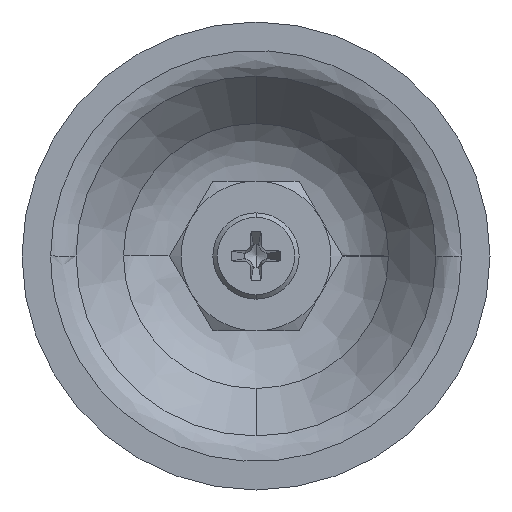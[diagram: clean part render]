
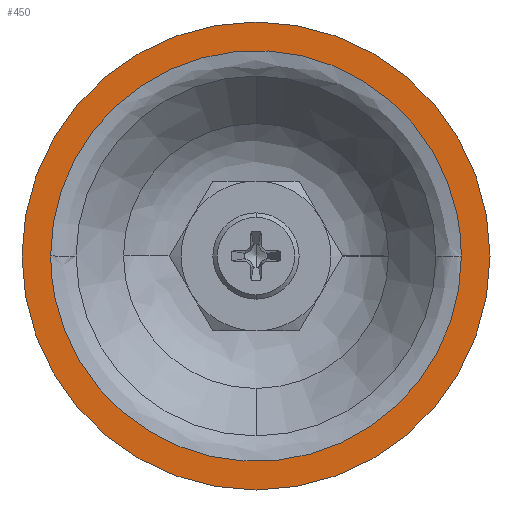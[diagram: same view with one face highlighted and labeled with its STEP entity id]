
A CAD part, front view. The second image highlights one B-rep face of the part: STEP entity #450.
In plain terms, the highlighted planar face has unit normal (0, -1, 0).
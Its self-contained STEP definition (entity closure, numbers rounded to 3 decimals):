
#107 = VERTEX_POINT ( 'NONE', #1838 ) ;
#177 = VERTEX_POINT ( 'NONE', #2398 ) ;
#212 = EDGE_CURVE ( 'NONE', #3653, #107, #2727, .T. ) ;
#368 = ORIENTED_EDGE ( 'NONE', *, *, #212, .T. ) ;
#434 = EDGE_LOOP ( 'NONE', ( #1881, #3052 ) ) ;
#450 = ADVANCED_FACE ( 'NONE', ( #2096, #2097 ), #2098, .F. ) ;
#618 = EDGE_CURVE ( 'NONE', #107, #3653, #2810, .T. ) ;
#653 = EDGE_CURVE ( 'NONE', #177, #4308, #2932, .T. ) ;
#772 = EDGE_LOOP ( 'NONE', ( #1726, #368 ) ) ;
#1460 = CARTESIAN_POINT ( 'NONE',  ( -32.911, 0., 0. ) ) ;
#1726 = ORIENTED_EDGE ( 'NONE', *, *, #618, .T. ) ;
#1838 = CARTESIAN_POINT ( 'NONE',  ( 0., 0., 37.5 ) ) ;
#1881 = ORIENTED_EDGE ( 'NONE', *, *, #653, .T. ) ;
#2096 = FACE_BOUND ( 'NONE', #434, .T. ) ;
#2097 = FACE_OUTER_BOUND ( 'NONE', #772, .T. ) ;
#2098 = PLANE ( 'NONE',  #2099 ) ;
#2099 = AXIS2_PLACEMENT_3D ( 'NONE', #2100, #2101, #2102 ) ;
#2100 = CARTESIAN_POINT ( 'NONE',  ( -39., 0., 39.027 ) ) ;
#2101 = DIRECTION ( 'NONE',  ( 0., 1., 0. ) ) ;
#2102 = DIRECTION ( 'NONE',  ( 1., 0., 0. ) ) ;
#2398 = CARTESIAN_POINT ( 'NONE',  ( 32.911, 0., 0. ) ) ;
#2727 = CIRCLE ( 'NONE', #2728, 37.5 ) ;
#2728 = AXIS2_PLACEMENT_3D ( 'NONE', #2729, #2730, #2731 ) ;
#2729 = CARTESIAN_POINT ( 'NONE',  ( 0., 0., 0. ) ) ;
#2730 = DIRECTION ( 'NONE',  ( 0., -1., 0. ) ) ;
#2731 = DIRECTION ( 'NONE',  ( 0., 0., 1. ) ) ;
#2810 = CIRCLE ( 'NONE', #2811, 37.5 ) ;
#2811 = AXIS2_PLACEMENT_3D ( 'NONE', #2812, #2813, #2814 ) ;
#2812 = CARTESIAN_POINT ( 'NONE',  ( 0., 0., 0. ) ) ;
#2813 = DIRECTION ( 'NONE',  ( 0., -1., 0. ) ) ;
#2814 = DIRECTION ( 'NONE',  ( 0., 0., 1. ) ) ;
#2932 = B_SPLINE_CURVE_WITH_KNOTS ( 'NONE', 3,
 ( #2933, #2934, #2935, #2936, #2937, #2938, #2939, #2940, #2941, #2942, #2943, #2944, #2945, #2946, #2947, #2950, #2951, #2952, #2953, #2954, #2955, #2956, #2957, #2958, #2959, #2960, #2961, #2962, #2963, #2964, #2965, #2968, #2969, #2970 ),
 .UNSPECIFIED., .F., .F.,
 ( 4, 2, 2, 2, 2, 2, 2, 2, 2, 2, 2, 2, 2, 2, 2, 2, 4 ),
 ( 0., 0.063, 0.125, 0.188, 0.25, 0.313, 0.375, 0.438, 0.5, 0.563, 0.625, 0.687, 0.75, 0.813, 0.875, 0.938, 1. ),
 .UNSPECIFIED. ) ;
#2933 = CARTESIAN_POINT ( 'NONE',  ( 32.911, 0., 0. ) ) ;
#2934 = CARTESIAN_POINT ( 'NONE',  ( 32.911, 0., -2.156 ) ) ;
#2935 = CARTESIAN_POINT ( 'NONE',  ( 32.699, 0., -4.307 ) ) ;
#2936 = CARTESIAN_POINT ( 'NONE',  ( 31.858, 0., -8.534 ) ) ;
#2937 = CARTESIAN_POINT ( 'NONE',  ( 31.23, 0., -10.603 ) ) ;
#2938 = CARTESIAN_POINT ( 'NONE',  ( 29.581, 0., -14.585 ) ) ;
#2939 = CARTESIAN_POINT ( 'NONE',  ( 28.562, 0., -16.492 ) ) ;
#2940 = CARTESIAN_POINT ( 'NONE',  ( 26.167, 0., -20.076 ) ) ;
#2941 = CARTESIAN_POINT ( 'NONE',  ( 24.795, 0., -21.748 ) ) ;
#2942 = CARTESIAN_POINT ( 'NONE',  ( 21.748, 0., -24.795 ) ) ;
#2943 = CARTESIAN_POINT ( 'NONE',  ( 20.076, 0., -26.167 ) ) ;
#2944 = CARTESIAN_POINT ( 'NONE',  ( 16.492, 0., -28.562 ) ) ;
#2945 = CARTESIAN_POINT ( 'NONE',  ( 14.585, 0., -29.581 ) ) ;
#2946 = CARTESIAN_POINT ( 'NONE',  ( 10.603, 0., -31.23 ) ) ;
#2947 = CARTESIAN_POINT ( 'NONE',  ( 8.534, 0., -31.858 ) ) ;
#2950 = CARTESIAN_POINT ( 'NONE',  ( 4.307, 0., -32.699 ) ) ;
#2951 = CARTESIAN_POINT ( 'NONE',  ( 2.155, 0., -32.911 ) ) ;
#2952 = CARTESIAN_POINT ( 'NONE',  ( -2.155, 0., -32.911 ) ) ;
#2953 = CARTESIAN_POINT ( 'NONE',  ( -4.307, 0., -32.699 ) ) ;
#2954 = CARTESIAN_POINT ( 'NONE',  ( -8.534, 0., -31.858 ) ) ;
#2955 = CARTESIAN_POINT ( 'NONE',  ( -10.603, 0., -31.23 ) ) ;
#2956 = CARTESIAN_POINT ( 'NONE',  ( -14.585, 0., -29.581 ) ) ;
#2957 = CARTESIAN_POINT ( 'NONE',  ( -16.492, 0., -28.562 ) ) ;
#2958 = CARTESIAN_POINT ( 'NONE',  ( -20.076, 0., -26.167 ) ) ;
#2959 = CARTESIAN_POINT ( 'NONE',  ( -21.748, 0., -24.795 ) ) ;
#2960 = CARTESIAN_POINT ( 'NONE',  ( -24.795, 0., -21.748 ) ) ;
#2961 = CARTESIAN_POINT ( 'NONE',  ( -26.167, 0., -20.076 ) ) ;
#2962 = CARTESIAN_POINT ( 'NONE',  ( -28.562, 0., -16.492 ) ) ;
#2963 = CARTESIAN_POINT ( 'NONE',  ( -29.581, 0., -14.585 ) ) ;
#2964 = CARTESIAN_POINT ( 'NONE',  ( -31.23, 0., -10.603 ) ) ;
#2965 = CARTESIAN_POINT ( 'NONE',  ( -31.858, 0., -8.534 ) ) ;
#2967 = EDGE_CURVE ( 'NONE', #4308, #177, #3151, .T. ) ;
#2968 = CARTESIAN_POINT ( 'NONE',  ( -32.699, 0., -4.307 ) ) ;
#2969 = CARTESIAN_POINT ( 'NONE',  ( -32.911, 0., -2.156 ) ) ;
#2970 = CARTESIAN_POINT ( 'NONE',  ( -32.911, 0., 0. ) ) ;
#3052 = ORIENTED_EDGE ( 'NONE', *, *, #2967, .T. ) ;
#3151 = B_SPLINE_CURVE_WITH_KNOTS ( 'NONE', 3,
 ( #3152, #3153, #3154, #3155, #3159, #3160, #3161, #3162, #3163, #3164, #3165, #3166, #3167, #3168, #3169, #3170, #3171, #3172, #3173, #3174, #3176, #3177, #3178, #3179, #3180, #3181, #3182, #3183, #3184, #3185, #3186, #3187, #3188, #3189 ),
 .UNSPECIFIED., .F., .F.,
 ( 4, 2, 2, 2, 2, 2, 2, 2, 2, 2, 2, 2, 2, 2, 2, 2, 4 ),
 ( 0., 0.062, 0.125, 0.187, 0.25, 0.312, 0.375, 0.437, 0.5, 0.562, 0.625, 0.687, 0.75, 0.812, 0.875, 0.938, 1. ),
 .UNSPECIFIED. ) ;
#3152 = CARTESIAN_POINT ( 'NONE',  ( -32.911, 0., 0. ) ) ;
#3153 = CARTESIAN_POINT ( 'NONE',  ( -32.911, 0., 2.156 ) ) ;
#3154 = CARTESIAN_POINT ( 'NONE',  ( -32.699, 0., 4.307 ) ) ;
#3155 = CARTESIAN_POINT ( 'NONE',  ( -31.858, 0., 8.534 ) ) ;
#3159 = CARTESIAN_POINT ( 'NONE',  ( -31.23, 0., 10.603 ) ) ;
#3160 = CARTESIAN_POINT ( 'NONE',  ( -29.581, 0., 14.585 ) ) ;
#3161 = CARTESIAN_POINT ( 'NONE',  ( -28.562, 0., 16.492 ) ) ;
#3162 = CARTESIAN_POINT ( 'NONE',  ( -26.167, 0., 20.076 ) ) ;
#3163 = CARTESIAN_POINT ( 'NONE',  ( -24.795, 0., 21.748 ) ) ;
#3164 = CARTESIAN_POINT ( 'NONE',  ( -21.748, 0., 24.795 ) ) ;
#3165 = CARTESIAN_POINT ( 'NONE',  ( -20.076, 0., 26.167 ) ) ;
#3166 = CARTESIAN_POINT ( 'NONE',  ( -16.492, 0., 28.562 ) ) ;
#3167 = CARTESIAN_POINT ( 'NONE',  ( -14.585, 0., 29.581 ) ) ;
#3168 = CARTESIAN_POINT ( 'NONE',  ( -10.603, 0., 31.23 ) ) ;
#3169 = CARTESIAN_POINT ( 'NONE',  ( -8.534, 0., 31.858 ) ) ;
#3170 = CARTESIAN_POINT ( 'NONE',  ( -4.307, 0., 32.699 ) ) ;
#3171 = CARTESIAN_POINT ( 'NONE',  ( -2.155, 0., 32.911 ) ) ;
#3172 = CARTESIAN_POINT ( 'NONE',  ( 2.155, 0., 32.911 ) ) ;
#3173 = CARTESIAN_POINT ( 'NONE',  ( 4.307, 0., 32.699 ) ) ;
#3174 = CARTESIAN_POINT ( 'NONE',  ( 8.534, 0., 31.858 ) ) ;
#3176 = CARTESIAN_POINT ( 'NONE',  ( 10.603, 0., 31.23 ) ) ;
#3177 = CARTESIAN_POINT ( 'NONE',  ( 14.585, 0., 29.581 ) ) ;
#3178 = CARTESIAN_POINT ( 'NONE',  ( 16.492, 0., 28.562 ) ) ;
#3179 = CARTESIAN_POINT ( 'NONE',  ( 20.076, 0., 26.167 ) ) ;
#3180 = CARTESIAN_POINT ( 'NONE',  ( 21.748, 0., 24.795 ) ) ;
#3181 = CARTESIAN_POINT ( 'NONE',  ( 24.795, 0., 21.748 ) ) ;
#3182 = CARTESIAN_POINT ( 'NONE',  ( 26.167, 0., 20.076 ) ) ;
#3183 = CARTESIAN_POINT ( 'NONE',  ( 28.562, 0., 16.492 ) ) ;
#3184 = CARTESIAN_POINT ( 'NONE',  ( 29.581, 0., 14.585 ) ) ;
#3185 = CARTESIAN_POINT ( 'NONE',  ( 31.23, 0., 10.603 ) ) ;
#3186 = CARTESIAN_POINT ( 'NONE',  ( 31.858, 0., 8.534 ) ) ;
#3187 = CARTESIAN_POINT ( 'NONE',  ( 32.699, 0., 4.307 ) ) ;
#3188 = CARTESIAN_POINT ( 'NONE',  ( 32.911, 0., 2.156 ) ) ;
#3189 = CARTESIAN_POINT ( 'NONE',  ( 32.911, 0., 0. ) ) ;
#3651 = CARTESIAN_POINT ( 'NONE',  ( 0., 0., -37.5 ) ) ;
#3653 = VERTEX_POINT ( 'NONE', #3651 ) ;
#4308 = VERTEX_POINT ( 'NONE', #1460 ) ;
